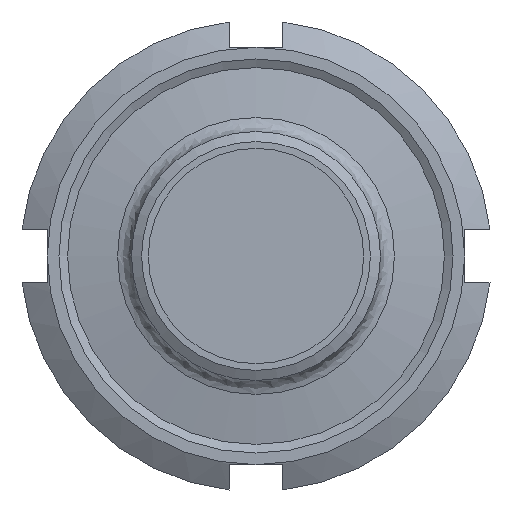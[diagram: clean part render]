
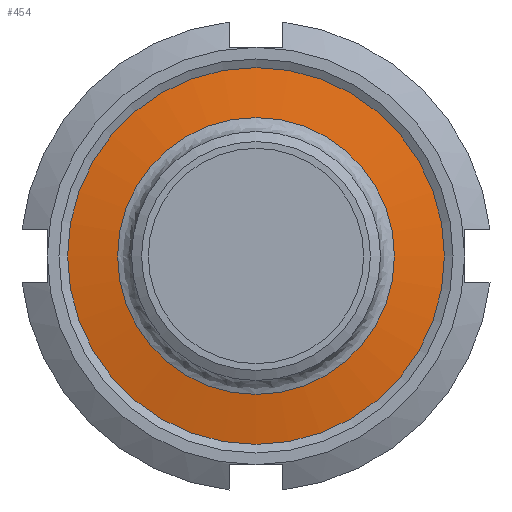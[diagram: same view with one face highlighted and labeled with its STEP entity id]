
A CAD part, left-side view. The second image highlights one B-rep face of the part: STEP entity #454.
In plain terms, the highlighted conical face has half-angle 80 degrees and reference radius 24.783 mm.
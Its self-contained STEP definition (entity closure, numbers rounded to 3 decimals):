
#140=CARTESIAN_POINT('',(18.0,29.,0.0));
#141=VERTEX_POINT('',#140);
#142=CARTESIAN_POINT('',(18.,0.,0.0));
#143=DIRECTION('',(1.0,0.0,0.0));
#144=DIRECTION('',(0.0,1.0,0.0));
#145=AXIS2_PLACEMENT_3D('',#142,#143,#144);
#146=CIRCLE('',#145,29.);
#147=EDGE_CURVE('',#141,#141,#146,.T.);
#428=CARTESIAN_POINT('',(16.513,20.566,0.0));
#429=VERTEX_POINT('',#428);
#430=CARTESIAN_POINT('',(16.513,0.,0.0));
#431=DIRECTION('',(1.0,0.0,0.0));
#432=DIRECTION('',(0.0,1.0,0.0));
#433=AXIS2_PLACEMENT_3D('',#430,#431,#432);
#434=CIRCLE('',#433,20.566);
#435=EDGE_CURVE('',#429,#429,#434,.T.);
#443=CARTESIAN_POINT('',(17.256,0.,0.0));
#444=DIRECTION('',(1.0,0.,0.0));
#445=DIRECTION('',(0.0,1.0,0.0));
#446=AXIS2_PLACEMENT_3D('',#443,#444,#445);
#447=CONICAL_SURFACE('',#446,24.783,80.);
#448=ORIENTED_EDGE('',*,*,#147,.F.);
#449=EDGE_LOOP('',(#448));
#450=FACE_OUTER_BOUND('',#449,.T.);
#451=ORIENTED_EDGE('',*,*,#435,.T.);
#452=EDGE_LOOP('',(#451));
#453=FACE_BOUND('',#452,.T.);
#454=ADVANCED_FACE('',(#450,#453),#447,.T.);
